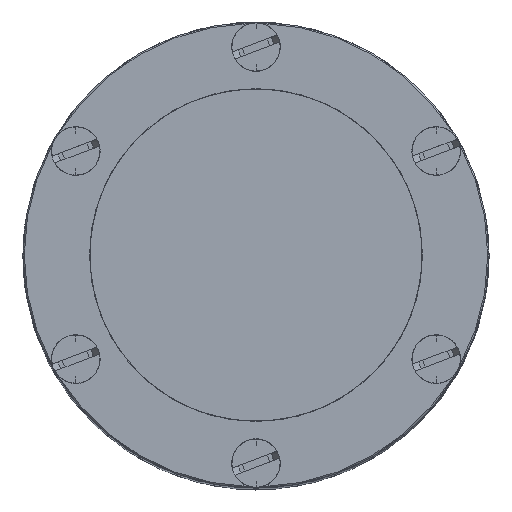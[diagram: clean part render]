
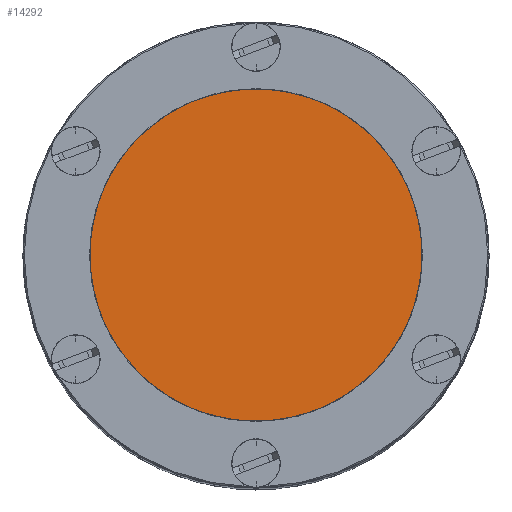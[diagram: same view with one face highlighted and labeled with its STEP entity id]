
A CAD part, top view. The second image highlights one B-rep face of the part: STEP entity #14292.
In plain terms, the highlighted planar face has unit normal (0, 0, 1).
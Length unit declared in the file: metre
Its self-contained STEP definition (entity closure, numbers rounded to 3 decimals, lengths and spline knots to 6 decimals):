
#900 = VERTEX_POINT ( 'NONE', #4807 ) ;
#1348 = VERTEX_POINT ( 'NONE', #16225 ) ;
#2608 = FACE_OUTER_BOUND ( 'NONE', #10710, .T. ) ;
#2848 = AXIS2_PLACEMENT_3D ( 'NONE', #8379, #15330, #7011 ) ;
#3106 = CIRCLE ( 'NONE', #11881, 0.031737 ) ;
#3833 = DIRECTION ( 'NONE',  ( 0., 0., 1. ) ) ;
#3878 = CARTESIAN_POINT ( 'NONE',  ( 0., 0., 0.106755 ) ) ;
#4807 = CARTESIAN_POINT ( 'NONE',  ( -0.008408, -0.030603, 0.106755 ) ) ;
#5352 = CIRCLE ( 'NONE', #15578, 0.031737 ) ;
#5524 = DIRECTION ( 'NONE',  ( 0.265, 0.964, 0. ) ) ;
#6390 = EDGE_CURVE ( 'NONE', #900, #1348, #5352, .T. ) ;
#6726 = DIRECTION ( 'NONE',  ( 0., 0., 1. ) ) ;
#6965 = ORIENTED_EDGE ( 'NONE', *, *, #12496, .T. ) ;
#7011 = DIRECTION ( 'NONE',  ( 0.265, 0.964, 0. ) ) ;
#7773 = CARTESIAN_POINT ( 'NONE',  ( 0., 0., 0.106755 ) ) ;
#8379 = CARTESIAN_POINT ( 'NONE',  ( 0., 0., 0.106755 ) ) ;
#9146 = PLANE ( 'NONE',  #2848 ) ;
#10710 = EDGE_LOOP ( 'NONE', ( #6965, #13967 ) ) ;
#11881 = AXIS2_PLACEMENT_3D ( 'NONE', #3878, #6726, #5524 ) ;
#12496 = EDGE_CURVE ( 'NONE', #1348, #900, #3106, .T. ) ;
#13967 = ORIENTED_EDGE ( 'NONE', *, *, #6390, .T. ) ;
#14292 = ADVANCED_FACE ( 'NONE', ( #2608 ), #9146, .T. ) ;
#15330 = DIRECTION ( 'NONE',  ( 0., 0., 1. ) ) ;
#15578 = AXIS2_PLACEMENT_3D ( 'NONE', #7773, #3833, #17553 ) ;
#16225 = CARTESIAN_POINT ( 'NONE',  ( 0.008408, 0.030603, 0.106755 ) ) ;
#17553 = DIRECTION ( 'NONE',  ( 0.265, 0.964, 0. ) ) ;
